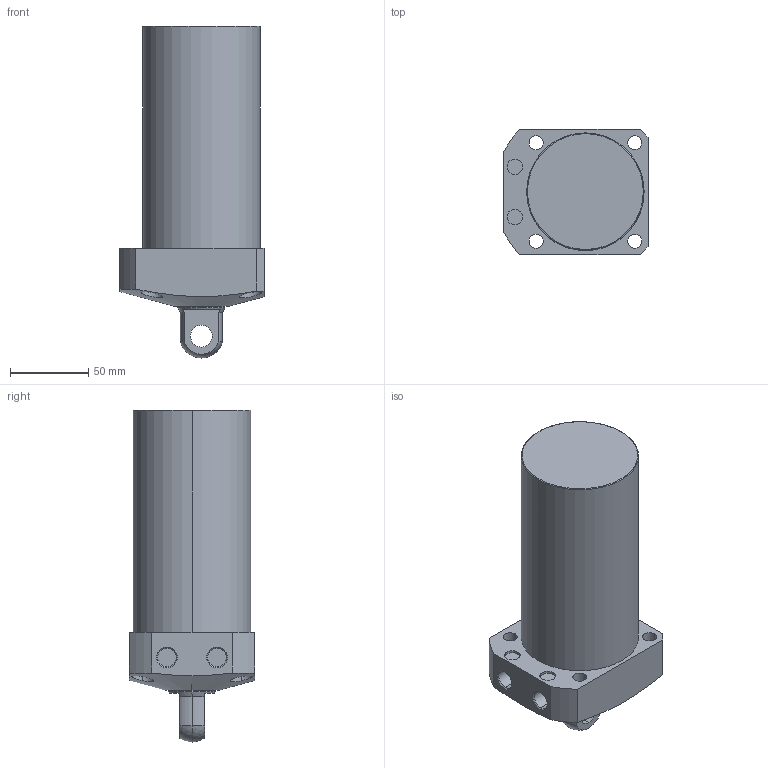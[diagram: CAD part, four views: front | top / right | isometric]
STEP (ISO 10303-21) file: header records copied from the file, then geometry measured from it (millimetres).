
FILE_DESCRIPTION (( 'STEP AP203' ), '1' );
FILE_NAME ('CLL-075CP-105.STEP', '2019-12-25T07:33:48', ( '' ), ( '' ), 'SwSTEP 2.0', 'SolidWorks 2015', '' );
FILE_SCHEMA (( 'CONFIG_CONTROL_DESIGN' ));
Length unit declared in the file: millimetre
Products named in the file (1): CLL-075CP-105
Bounding box: 92 x 80 x 212 mm (x, y, z)
Volume: 854778.6 mm3; surface area: 65361.6 mm2
Topology: 1 solids, 1 shells, 68 faces, 159 edges, 103 vertices
Faces by surface type: cylinder 35, plane 21, cone 8, sphere 2, torus 2
Entity records: 2459 total; most frequent: CARTESIAN_POINT 762, DIRECTION 357, ORIENTED_EDGE 318, EDGE_CURVE 159, AXIS2_PLACEMENT_3D 149, VERTEX_POINT 103, EDGE_LOOP 88, CIRCLE 80
